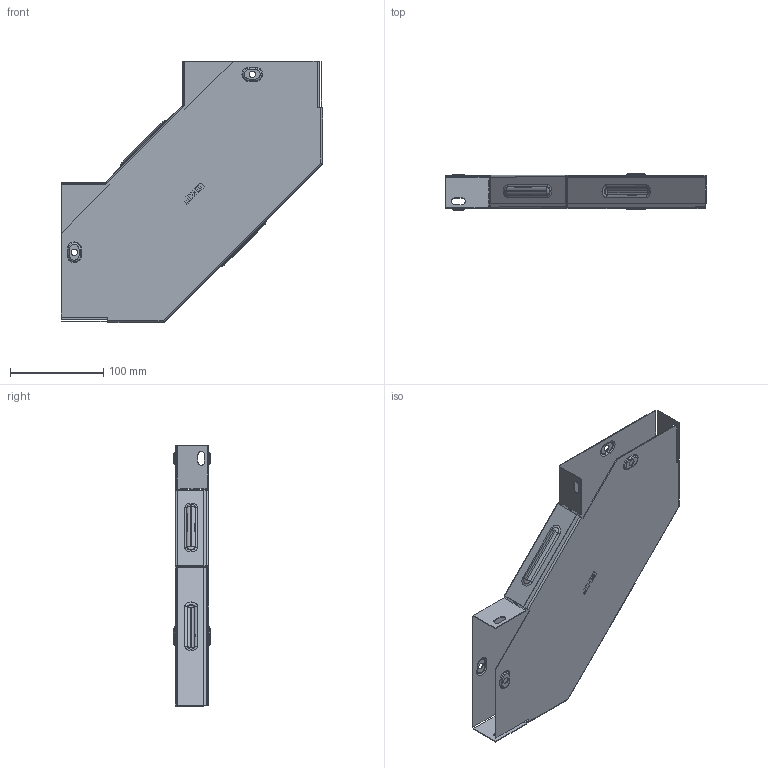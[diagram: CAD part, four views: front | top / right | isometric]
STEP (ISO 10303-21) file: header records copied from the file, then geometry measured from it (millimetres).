
FILE_DESCRIPTION (( 'STEP AP214' ), '1' );
FILE_NAME ('g9035150_捘.STEP', '2019-06-10T09:50:00', ( '砐錪賧瘔蠈錪 Windows' ), ( '' ), 'SwSTEP 2.0', 'SolidWorks 2018', '' );
FILE_SCHEMA (( 'AUTOMOTIVE_DESIGN' ));
Length unit declared in the file: millimetre
Products named in the file (1): g9035150_捘
Bounding box: 280.8 x 38.8 x 280.8 mm (x, y, z)
Volume: 106002.6 mm3; surface area: 267613.7 mm2
Topology: 2 solids, 2 shells, 485 faces, 1287 edges, 826 vertices
Faces by surface type: plane 272, cylinder 123, torus 64, bspline 26
Entity records: 16296 total; most frequent: CARTESIAN_POINT 4075, ORIENTED_EDGE 2574, DIRECTION 2469, EDGE_CURVE 1287, LINE 897, VECTOR 897, VERTEX_POINT 826, AXIS2_PLACEMENT_3D 786
